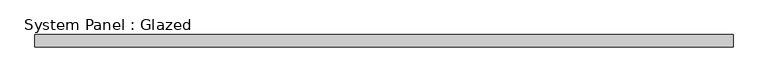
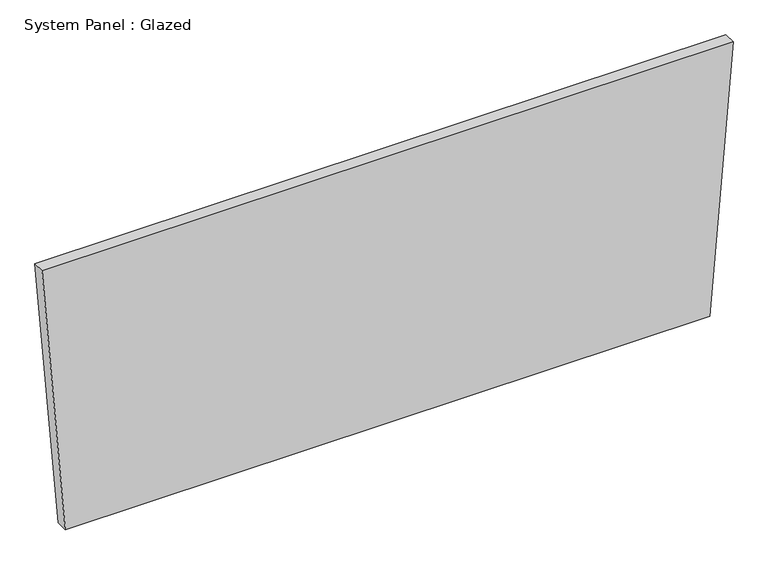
"""IFC4 building model written with IfcOpenShell, lengths in millimetres: plate geometry, System Panel : Glazed."""

from ifc_helpers import new_model, si_unit, frame, origin, place, context, project, spatial, polyline, outline, extrude, source, transform, mapped, element, save


def system_panel_glazed_6963cb6b(model_context):
    return source(origin(), model_context, "Body", "SweptSolid", [
        extrude(outline(polyline([(0.0, -665.1728319), (0.0, 665.1728319), (582.1493342, 713.0438024), (582.1493342, -713.0438024), (0.0, -665.1728319)])), frame((0.0, -44.45, 0.0), z_axis=(0.0, 1.0, 0.0), x_axis=(0.0, 0.0, 1.0)), (0.0, 0.0, 1.0), 25.4),
    ])


if __name__ == "__main__":
    model = new_model("IFC4")
    model_context = context("Model", 3, world=origin())
    ifc_project = project(units=[si_unit("LENGTHUNIT", "METRE", prefix="MILLI")], contexts=[model_context])
    site = spatial("IfcSite", under=ifc_project)
    building = spatial("IfcBuilding", under=site)
    placement = place(None, origin())
    system_panel_glazed_shape = system_panel_glazed_6963cb6b(model_context)
    element("IfcPlate", 1, ObjectType="System Panel : Glazed", at=placement, inside=building, context=model_context, shape_type="MappedRepresentation", body=[
        mapped(system_panel_glazed_shape, transform((0.0, 0.0, 0.0), x_axis=(1.0, 0.0, 0.0), y_axis=(0.0, 1.0, 0.0), z_axis=(0.0, 0.0, 1.0))),
    ])
    save(model, "model.ifc")
